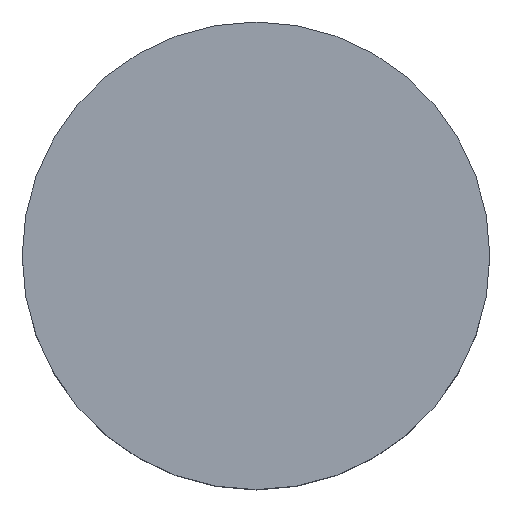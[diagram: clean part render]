
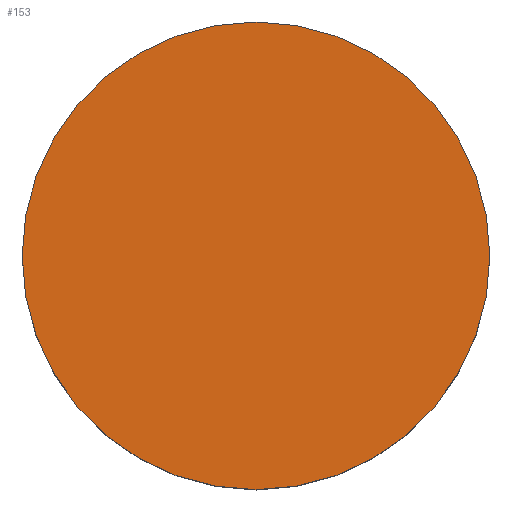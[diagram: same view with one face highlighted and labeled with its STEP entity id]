
A CAD part, top view. The second image highlights one B-rep face of the part: STEP entity #153.
In plain terms, the highlighted planar face has unit normal (0, 0, 1).
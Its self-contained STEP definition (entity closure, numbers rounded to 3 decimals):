
#153=ADVANCED_FACE('',(#185),#178,.T.);
#178=PLANE('',#446);
#185=FACE_OUTER_BOUND('',#205,.T.);
#205=EDGE_LOOP('',(#235,#236));
#235=ORIENTED_EDGE('',*,*,#361,.F.);
#236=ORIENTED_EDGE('',*,*,#362,.F.);
#331=VERTEX_POINT('',#639);
#332=VERTEX_POINT('',#640);
#361=EDGE_CURVE('',#331,#332,#409,.T.);
#362=EDGE_CURVE('',#332,#331,#410,.T.);
#409=CIRCLE('',#444,6.5);
#410=CIRCLE('',#445,6.5);
#444=AXIS2_PLACEMENT_3D('',#638,#505,#506);
#445=AXIS2_PLACEMENT_3D('',#641,#507,#508);
#446=AXIS2_PLACEMENT_3D('',#642,#509,#510);
#505=DIRECTION('',(0.,0.,-1.));
#506=DIRECTION('',(0.,1.,0.));
#507=DIRECTION('',(0.,0.,-1.));
#508=DIRECTION('',(0.,-1.,0.));
#509=DIRECTION('',(0.,0.,1.));
#510=DIRECTION('',(0.,-1.,0.));
#638=CARTESIAN_POINT('',(0.,0.,5.));
#639=CARTESIAN_POINT('',(6.5,0.,5.));
#640=CARTESIAN_POINT('',(-6.5,0.,5.));
#641=CARTESIAN_POINT('',(0.,0.,5.));
#642=CARTESIAN_POINT('',(0.,0.,5.));
